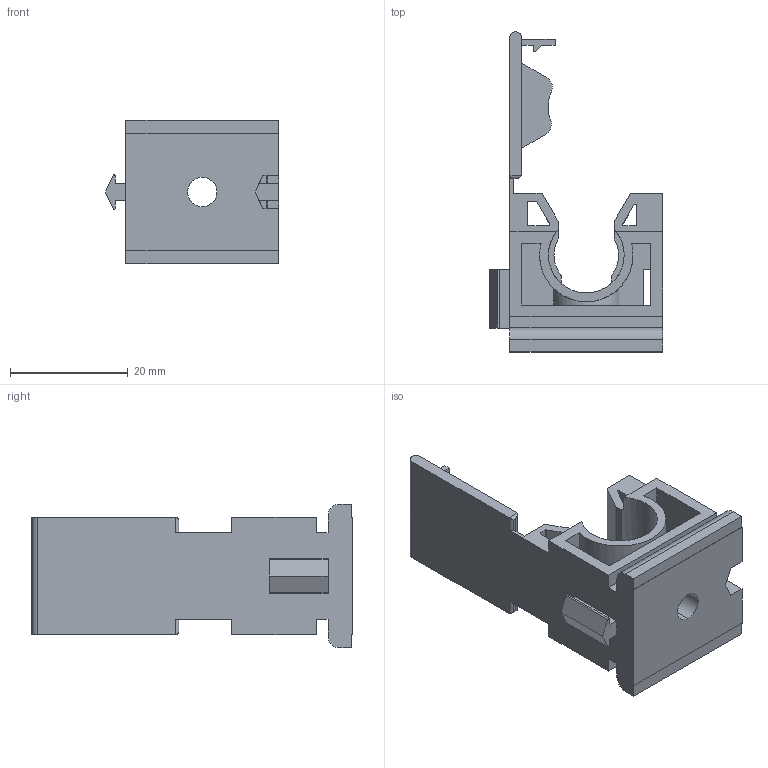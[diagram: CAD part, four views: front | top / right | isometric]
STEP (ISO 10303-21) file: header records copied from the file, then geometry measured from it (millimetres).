
FILE_DESCRIPTION (( 'STEP AP203' ), '1' );
FILE_NAME ('WQSC-AD13.0.STEP', '2016-03-25T05:04:46', ( '' ), ( '' ), 'SwSTEP 2.0', 'SolidWorks 2010', '' );
FILE_SCHEMA (( 'CONFIG_CONTROL_DESIGN' ));
Length unit declared in the file: millimetre
Products named in the file (1): WQSC-AD13.0
Bounding box: 29.5 x 54.5 x 24.5 mm (x, y, z)
Volume: 8350.3 mm3; surface area: 7535.6 mm2
Topology: 1 solids, 1 shells, 151 faces, 440 edges, 292 vertices
Faces by surface type: plane 99, cylinder 52
Entity records: 5223 total; most frequent: CARTESIAN_POINT 1051, ORIENTED_EDGE 880, DIRECTION 834, EDGE_CURVE 440, VECTOR 328, LINE 328, VERTEX_POINT 292, AXIS2_PLACEMENT_3D 253
